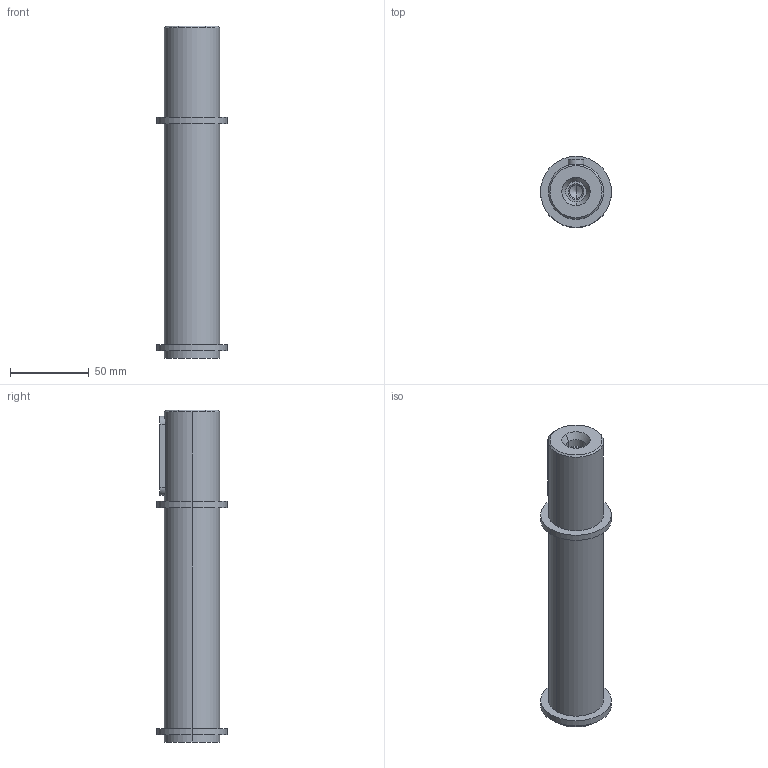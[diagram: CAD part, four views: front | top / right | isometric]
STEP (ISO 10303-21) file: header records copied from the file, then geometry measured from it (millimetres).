
FILE_DESCRIPTION(/* description */ (''),/* implementation_level */ '2;1');
FILE_NAME(/* name */ '4_ALBERO LENTO SEMPLICE B063',/* time_stamp */ '2025-10-22T11:02:33+02:00',/* author */ (''),/* organization */ (''),/* preprocessor_version */ 'ST-DEVELOPER v19.2',/* originating_system */ 'Rhino 8.23',/* authorisation */ '');
FILE_SCHEMA (('CONFIG_CONTROL_DESIGN'));
Length unit declared in the file: millimetre
Products named in the file (2): Document; Albero 35x58-(631)
Bounding box: 45 x 45 x 210.5 mm (x, y, z)
Volume: 205945.4 mm3; surface area: 29233 mm2
Topology: 1 solids, 1 shells, 34 faces, 70 edges, 43 vertices
Faces by surface type: cylinder 16, plane 10, bspline 8
Entity records: 1176 total; most frequent: CARTESIAN_POINT 339, ORIENTED_EDGE 136, DIRECTION 106, EDGE_CURVE 68, AXIS2_PLACEMENT_3D 66, VERTEX_POINT 43, EDGE_LOOP 41, TRIMMED_CURVE 36
